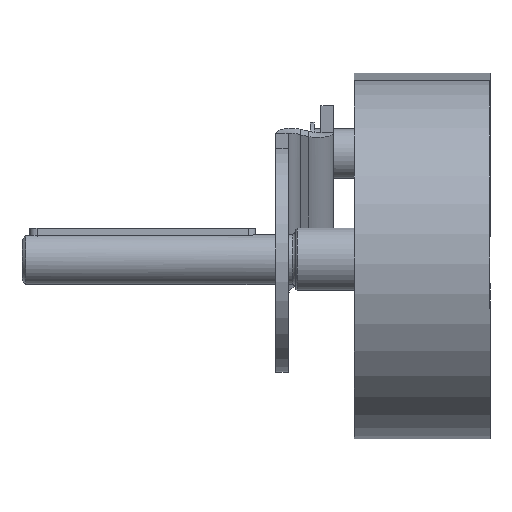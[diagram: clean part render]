
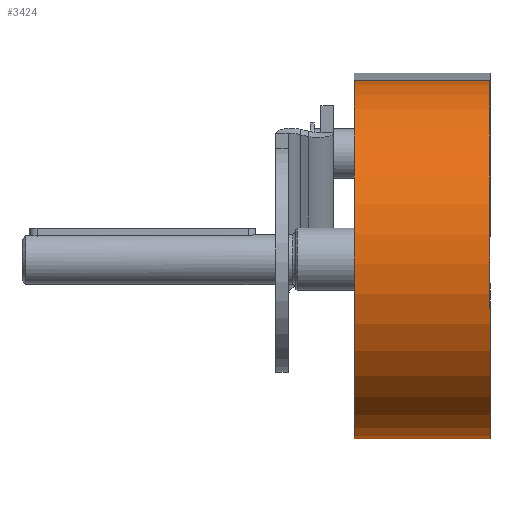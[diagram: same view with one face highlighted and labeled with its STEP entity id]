
A CAD part, left-side view. The second image highlights one B-rep face of the part: STEP entity #3424.
In plain terms, the highlighted cylindrical face has radius 71.5 mm (diameter 143 mm), a partial arc.
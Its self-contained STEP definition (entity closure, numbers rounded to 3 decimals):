
#115=CYLINDRICAL_SURFACE('',#3756,71.5);
#357=LINE('',#6058,#630);
#359=LINE('',#6064,#632);
#630=VECTOR('',#4604,10.);
#632=VECTOR('',#4610,10.);
#886=FACE_OUTER_BOUND('',#1109,.T.);
#1109=EDGE_LOOP('',(#2776,#2777,#2778,#2779));
#1299=CIRCLE('',#3757,71.5);
#1300=CIRCLE('',#3758,71.5);
#1583=VERTEX_POINT('',#6055);
#1584=VERTEX_POINT('',#6057);
#1585=VERTEX_POINT('',#6061);
#1586=VERTEX_POINT('',#6063);
#1999=EDGE_CURVE('',#1583,#1584,#357,.T.);
#2001=EDGE_CURVE('',#1583,#1585,#1299,.T.);
#2002=EDGE_CURVE('',#1585,#1586,#359,.T.);
#2003=EDGE_CURVE('',#1584,#1586,#1300,.T.);
#2776=ORIENTED_EDGE('',*,*,#1999,.F.);
#2777=ORIENTED_EDGE('',*,*,#2001,.T.);
#2778=ORIENTED_EDGE('',*,*,#2002,.T.);
#2779=ORIENTED_EDGE('',*,*,#2003,.F.);
#3424=ADVANCED_FACE('',(#886),#115,.T.);
#3756=AXIS2_PLACEMENT_3D('',#6060,#4606,#4607);
#3757=AXIS2_PLACEMENT_3D('',#6062,#4608,#4609);
#3758=AXIS2_PLACEMENT_3D('',#6065,#4611,#4612);
#4604=DIRECTION('',(0.,-1.,0.));
#4606=DIRECTION('center_axis',(0.,1.,0.));
#4607=DIRECTION('ref_axis',(-0.471,0.,0.882));
#4608=DIRECTION('center_axis',(0.,-1.,0.));
#4609=DIRECTION('ref_axis',(-0.471,0.,0.882));
#4610=DIRECTION('',(0.,-1.,0.));
#4611=DIRECTION('center_axis',(0.,-1.,0.));
#4612=DIRECTION('ref_axis',(-0.471,0.,0.882));
#6055=CARTESIAN_POINT('',(-253.002,27.,29.225));
#6057=CARTESIAN_POINT('',(-253.002,-27.,29.225));
#6058=CARTESIAN_POINT('',(-253.002,27.,29.225));
#6060=CARTESIAN_POINT('Origin',(-248.,27.,-42.1));
#6061=CARTESIAN_POINT('',(-214.289,27.,-105.154));
#6062=CARTESIAN_POINT('Origin',(-248.,27.,-42.1));
#6063=CARTESIAN_POINT('',(-214.289,-27.,-105.154));
#6064=CARTESIAN_POINT('',(-214.289,27.,-105.154));
#6065=CARTESIAN_POINT('Origin',(-248.,-27.,-42.1));
